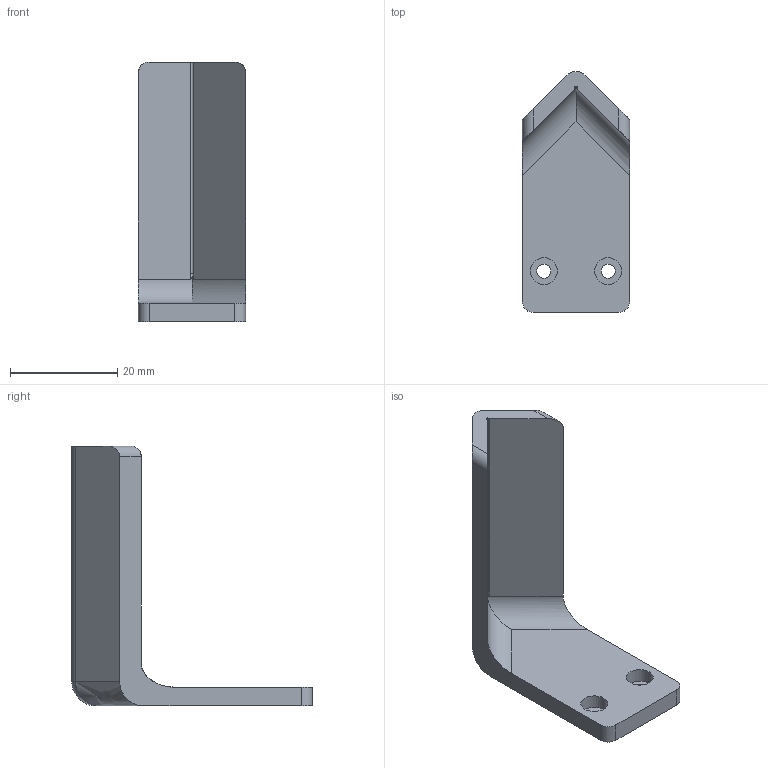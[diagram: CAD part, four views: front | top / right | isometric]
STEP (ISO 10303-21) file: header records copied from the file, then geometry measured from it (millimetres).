
FILE_DESCRIPTION(/* description */ (''),/* implementation_level */ '2;1');
FILE_NAME(/* name */ 'ORA Pointed Jaw Med.step',/* time_stamp */ '2024-09-26T15:31:08-07:00',/* author */ (''),/* organization */ (''),/* preprocessor_version */ 'ST-DEVELOPER v20',/* originating_system */ 'Autodesk Translation Framework v13.20.0.188',/* authorisation */ '');
FILE_SCHEMA (('AUTOMOTIVE_DESIGN { 1 0 10303 214 3 1 1 }'));
Length unit declared in the file: millimetre
Products named in the file (1): Gripper Lite Alternate Jaw
Bounding box: 20 x 44.85 x 48.5 mm (x, y, z)
Volume: 6303.1 mm3; surface area: 4888.4 mm2
Topology: 1 solids, 1 shells, 32 faces, 78 edges, 50 vertices
Faces by surface type: cylinder 14, plane 12, bspline 5, torus 1
Full cylindrical faces by diameter (mm): 2.6 x2, 5 x2
Entity records: 1229 total; most frequent: CARTESIAN_POINT 417, DIRECTION 161, ORIENTED_EDGE 156, EDGE_CURVE 78, AXIS2_PLACEMENT_3D 60, VERTEX_POINT 50, LINE 41, VECTOR 41
